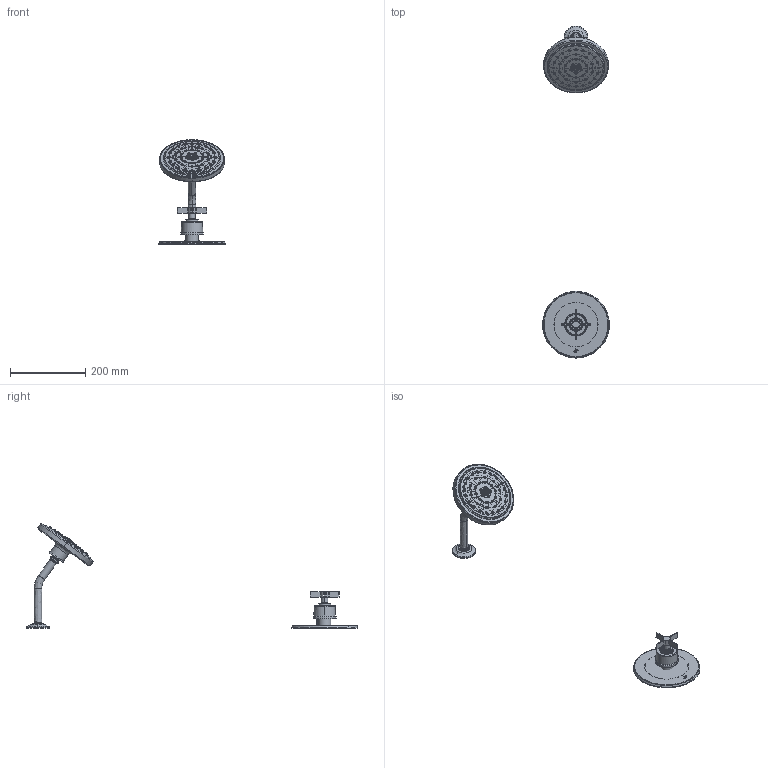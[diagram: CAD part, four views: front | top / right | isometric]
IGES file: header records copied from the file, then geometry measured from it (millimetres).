
Start section:  PTC IGES file: sku_ts377.igs
Global section: file name: sku_ts377.igs; native system: Pro/ENGINEER by Parametric Technology Corporation; preprocessor: 2006460; author: 9dutterb; organization: Unknown; date: 20071113.111718; units: inch
Bounding box: 177.42 x 882.45 x 278.09 mm (x, y, z)
Surface area: 278957.5 mm2 (no closed solid volume)
Topology: 0 solids, 0 shells, 445 faces, 2444 edges, 2442 vertices
Faces by surface type: revolution 331, bspline 114
